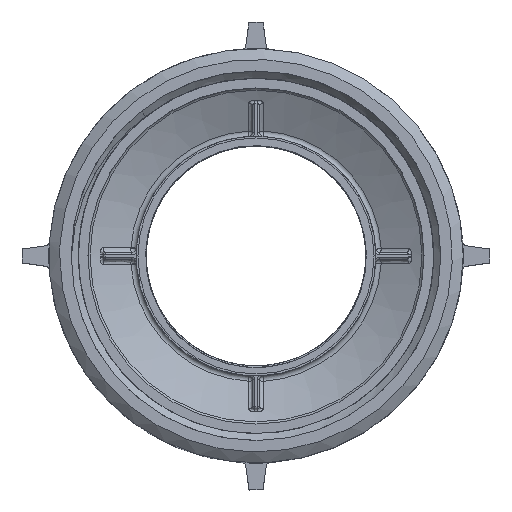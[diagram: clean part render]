
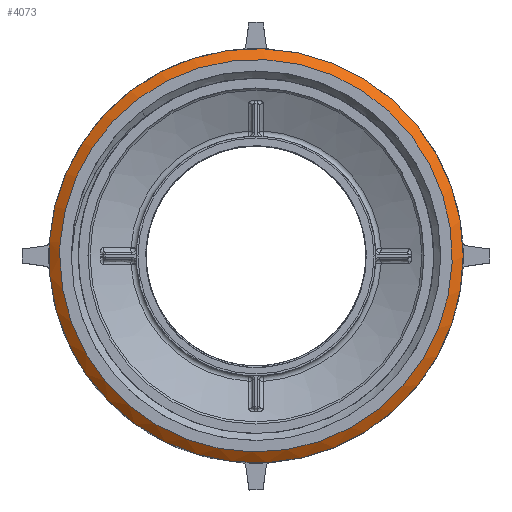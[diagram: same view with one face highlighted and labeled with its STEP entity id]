
A CAD part, front view. The second image highlights one B-rep face of the part: STEP entity #4073.
In plain terms, the highlighted conical face has half-angle 53.973 degrees and reference radius 98.954 mm.
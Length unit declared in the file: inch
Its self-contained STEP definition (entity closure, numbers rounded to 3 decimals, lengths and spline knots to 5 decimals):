
#834=CONICAL_SURFACE('',#4486,3.89581,0.942);
#946=VERTEX_POINT('',#38877);
#1129=VERTEX_POINT('',#43570);
#1274=CIRCLE('',#4179,3.88465);
#1391=CIRCLE('',#4370,4.10118);
#1560=EDGE_CURVE('',#946,#946,#1274,.T.);
#1825=EDGE_CURVE('',#1129,#1129,#1391,.T.);
#3061=ORIENTED_EDGE('',*,*,#1825,.F.);
#3062=ORIENTED_EDGE('',*,*,#1560,.T.);
#3541=EDGE_LOOP('',(#3061));
#3542=EDGE_LOOP('',(#3062));
#3815=FACE_BOUND('',#3541,.T.);
#3816=FACE_BOUND('',#3542,.T.);
#4073=ADVANCED_FACE('',(#3815,#3816),#834,.T.);
#4179=AXIS2_PLACEMENT_3D('',#38876,#4679,#4680);
#4370=AXIS2_PLACEMENT_3D('',#43569,#5098,#5099);
#4486=AXIS2_PLACEMENT_3D('',#45485,#5367,#5368);
#4679=DIRECTION('',(0.,1.,-0.004));
#4680=DIRECTION('',(3.885,0.,0.));
#5098=DIRECTION('',(0.,1.,-0.004));
#5099=DIRECTION('',(4.101,0.,0.));
#5367=DIRECTION('',(0.,1.,-0.004));
#5368=DIRECTION('',(-3.761,0.004,1.016));
#38876=CARTESIAN_POINT('',(3.95491,-1.53936,-3.85531));
#38877=CARTESIAN_POINT('',(0.07027,-1.53936,-3.85531));
#43569=CARTESIAN_POINT('',(3.95491,-1.38188,-3.8559));
#43570=CARTESIAN_POINT('',(8.05609,-1.38188,-3.8559));
#45485=CARTESIAN_POINT('',(3.95491,-1.53124,-3.85534));
